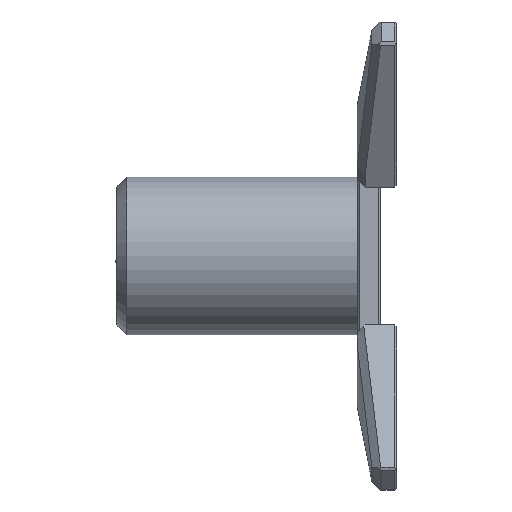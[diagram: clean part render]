
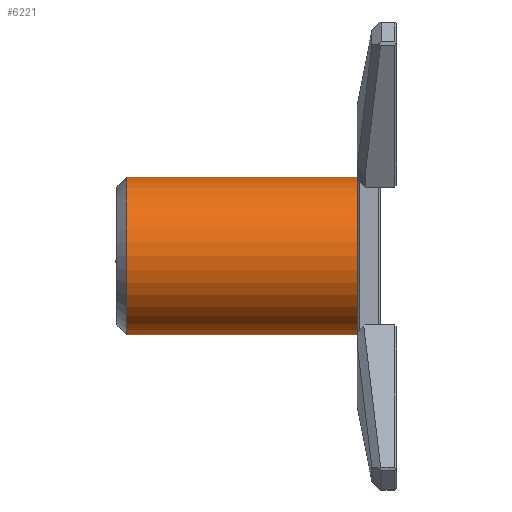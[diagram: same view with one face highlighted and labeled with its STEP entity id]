
A CAD part, left-side view. The second image highlights one B-rep face of the part: STEP entity #6221.
In plain terms, the highlighted cylindrical face has radius 40 mm (diameter 80 mm), a partial arc.
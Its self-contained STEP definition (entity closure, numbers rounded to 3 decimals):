
#345 = VERTEX_POINT('',#346);
#346 = CARTESIAN_POINT('',(0.,124.,40.));
#360 = CONICAL_SURFACE('',#361,35.,0.785);
#361 = AXIS2_PLACEMENT_3D('',#362,#363,#364);
#362 = CARTESIAN_POINT('',(0.,129.,0.));
#363 = DIRECTION('',(0.,-1.,0.));
#364 = DIRECTION('',(0.,0.,-1.));
#389 = CYLINDRICAL_SURFACE('',#390,40.);
#390 = AXIS2_PLACEMENT_3D('',#391,#392,#393);
#391 = CARTESIAN_POINT('',(0.,267.137,0.));
#392 = DIRECTION('',(-0.,-1.,-0.));
#393 = DIRECTION('',(0.,0.,-1.));
#480 = VERTEX_POINT('',#481);
#481 = CARTESIAN_POINT('',(0.,124.,-40.));
#507 = EDGE_CURVE('',#345,#480,#508,.T.);
#508 = SURFACE_CURVE('',#509,(#514,#521),.PCURVE_S1.);
#509 = CIRCLE('',#510,40.);
#510 = AXIS2_PLACEMENT_3D('',#511,#512,#513);
#511 = CARTESIAN_POINT('',(0.,124.,0.));
#512 = DIRECTION('',(0.,-1.,0.));
#513 = DIRECTION('',(0.,0.,1.));
#514 = PCURVE('',#360,#515);
#515 = DEFINITIONAL_REPRESENTATION('',(#516),#520);
#516 = LINE('',#517,#518);
#517 = CARTESIAN_POINT('',(3.142,5.));
#518 = VECTOR('',#519,1.);
#519 = DIRECTION('',(1.,0.));
#520 = ( GEOMETRIC_REPRESENTATION_CONTEXT(2) 
PARAMETRIC_REPRESENTATION_CONTEXT() REPRESENTATION_CONTEXT('2D SPACE',''
  ) );
#521 = PCURVE('',#522,#527);
#522 = CYLINDRICAL_SURFACE('',#523,40.);
#523 = AXIS2_PLACEMENT_3D('',#524,#525,#526);
#524 = CARTESIAN_POINT('',(0.,267.137,0.));
#525 = DIRECTION('',(-0.,-1.,-0.));
#526 = DIRECTION('',(0.,0.,-1.));
#527 = DEFINITIONAL_REPRESENTATION('',(#528),#532);
#528 = LINE('',#529,#530);
#529 = CARTESIAN_POINT('',(3.142,143.137));
#530 = VECTOR('',#531,1.);
#531 = DIRECTION('',(1.,0.));
#532 = ( GEOMETRIC_REPRESENTATION_CONTEXT(2) 
PARAMETRIC_REPRESENTATION_CONTEXT() REPRESENTATION_CONTEXT('2D SPACE',''
  ) );
#1948 = EDGE_CURVE('',#345,#1949,#1951,.T.);
#1949 = VERTEX_POINT('',#1950);
#1950 = CARTESIAN_POINT('',(0.,7.,40.));
#1951 = SURFACE_CURVE('',#1952,(#1956,#1963),.PCURVE_S1.);
#1952 = LINE('',#1953,#1954);
#1953 = CARTESIAN_POINT('',(0.,267.137,40.));
#1954 = VECTOR('',#1955,1.);
#1955 = DIRECTION('',(-0.,-1.,-0.));
#1956 = PCURVE('',#389,#1957);
#1957 = DEFINITIONAL_REPRESENTATION('',(#1958),#1962);
#1958 = LINE('',#1959,#1960);
#1959 = CARTESIAN_POINT('',(3.142,0.));
#1960 = VECTOR('',#1961,1.);
#1961 = DIRECTION('',(0.,1.));
#1962 = ( GEOMETRIC_REPRESENTATION_CONTEXT(2) 
PARAMETRIC_REPRESENTATION_CONTEXT() REPRESENTATION_CONTEXT('2D SPACE',''
  ) );
#1963 = PCURVE('',#522,#1964);
#1964 = DEFINITIONAL_REPRESENTATION('',(#1965),#1969);
#1965 = LINE('',#1966,#1967);
#1966 = CARTESIAN_POINT('',(3.142,0.));
#1967 = VECTOR('',#1968,1.);
#1968 = DIRECTION('',(0.,1.));
#1969 = ( GEOMETRIC_REPRESENTATION_CONTEXT(2) 
PARAMETRIC_REPRESENTATION_CONTEXT() REPRESENTATION_CONTEXT('2D SPACE',''
  ) );
#1972 = VERTEX_POINT('',#1973);
#1973 = CARTESIAN_POINT('',(0.,7.,-40.));
#1988 = PLANE('',#1989);
#1989 = AXIS2_PLACEMENT_3D('',#1990,#1991,#1992);
#1990 = CARTESIAN_POINT('',(0.,7.,0.));
#1991 = DIRECTION('',(0.,1.,-0.));
#1992 = DIRECTION('',(0.,0.,1.));
#2000 = EDGE_CURVE('',#480,#1972,#2001,.T.);
#2001 = SURFACE_CURVE('',#2002,(#2006,#2013),.PCURVE_S1.);
#2002 = LINE('',#2003,#2004);
#2003 = CARTESIAN_POINT('',(0.,267.137,-40.));
#2004 = VECTOR('',#2005,1.);
#2005 = DIRECTION('',(-0.,-1.,-0.));
#2006 = PCURVE('',#389,#2007);
#2007 = DEFINITIONAL_REPRESENTATION('',(#2008),#2012);
#2008 = LINE('',#2009,#2010);
#2009 = CARTESIAN_POINT('',(0.,0.));
#2010 = VECTOR('',#2011,1.);
#2011 = DIRECTION('',(0.,1.));
#2012 = ( GEOMETRIC_REPRESENTATION_CONTEXT(2) 
PARAMETRIC_REPRESENTATION_CONTEXT() REPRESENTATION_CONTEXT('2D SPACE',''
  ) );
#2013 = PCURVE('',#522,#2014);
#2014 = DEFINITIONAL_REPRESENTATION('',(#2015),#2019);
#2015 = LINE('',#2016,#2017);
#2016 = CARTESIAN_POINT('',(6.283,0.));
#2017 = VECTOR('',#2018,1.);
#2018 = DIRECTION('',(0.,1.));
#2019 = ( GEOMETRIC_REPRESENTATION_CONTEXT(2) 
PARAMETRIC_REPRESENTATION_CONTEXT() REPRESENTATION_CONTEXT('2D SPACE',''
  ) );
#4607 = EDGE_CURVE('',#1972,#1949,#4608,.T.);
#4608 = SURFACE_CURVE('',#4609,(#4614,#4621),.PCURVE_S1.);
#4609 = CIRCLE('',#4610,40.);
#4610 = AXIS2_PLACEMENT_3D('',#4611,#4612,#4613);
#4611 = CARTESIAN_POINT('',(0.,7.,0.));
#4612 = DIRECTION('',(0.,1.,0.));
#4613 = DIRECTION('',(0.,-0.,1.));
#4614 = PCURVE('',#1988,#4615);
#4615 = DEFINITIONAL_REPRESENTATION('',(#4616),#4620);
#4616 = CIRCLE('',#4617,40.);
#4617 = AXIS2_PLACEMENT_2D('',#4618,#4619);
#4618 = CARTESIAN_POINT('',(0.,0.));
#4619 = DIRECTION('',(1.,0.));
#4620 = ( GEOMETRIC_REPRESENTATION_CONTEXT(2) 
PARAMETRIC_REPRESENTATION_CONTEXT() REPRESENTATION_CONTEXT('2D SPACE',''
  ) );
#4621 = PCURVE('',#522,#4622);
#4622 = DEFINITIONAL_REPRESENTATION('',(#4623),#4627);
#4623 = LINE('',#4624,#4625);
#4624 = CARTESIAN_POINT('',(9.425,260.137));
#4625 = VECTOR('',#4626,1.);
#4626 = DIRECTION('',(-1.,0.));
#4627 = ( GEOMETRIC_REPRESENTATION_CONTEXT(2) 
PARAMETRIC_REPRESENTATION_CONTEXT() REPRESENTATION_CONTEXT('2D SPACE',''
  ) );
#6221 = ADVANCED_FACE('',(#6222),#522,.T.);
#6222 = FACE_BOUND('',#6223,.T.);
#6223 = EDGE_LOOP('',(#6224,#6225,#6226,#6227));
#6224 = ORIENTED_EDGE('',*,*,#1948,.F.);
#6225 = ORIENTED_EDGE('',*,*,#507,.T.);
#6226 = ORIENTED_EDGE('',*,*,#2000,.T.);
#6227 = ORIENTED_EDGE('',*,*,#4607,.T.);
